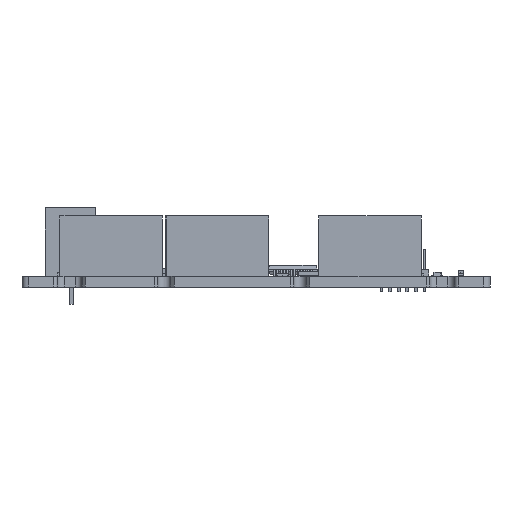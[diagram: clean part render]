
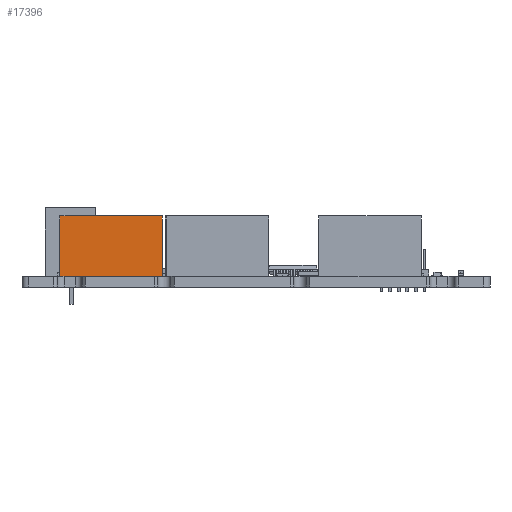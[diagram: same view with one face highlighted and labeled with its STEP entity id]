
A CAD part, left-side view. The second image highlights one B-rep face of the part: STEP entity #17396.
In plain terms, the highlighted planar face has unit normal (-1, 0, 0).
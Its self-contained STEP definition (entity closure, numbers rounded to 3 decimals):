
#17371 = VERTEX_POINT('',#17372);
#17372 = CARTESIAN_POINT('',(57.527,48.3,8.9)
  );
#17378 = EDGE_CURVE('',#17379,#17371,#17381,.T.);
#17379 = VERTEX_POINT('',#17380);
#17380 = CARTESIAN_POINT('',(57.527,48.3,0.));
#17381 = LINE('',#17382,#17383);
#17382 = CARTESIAN_POINT('',(57.527,48.3,0.));
#17383 = VECTOR('',#17384,1.);
#17384 = DIRECTION('',(0.,0.,1.));
#17396 = ADVANCED_FACE('',(#17397),#17422,.T.);
#17397 = FACE_BOUND('',#17398,.T.);
#17398 = EDGE_LOOP('',(#17399,#17400,#17408,#17416));
#17399 = ORIENTED_EDGE('',*,*,#17378,.T.);
#17400 = ORIENTED_EDGE('',*,*,#17401,.T.);
#17401 = EDGE_CURVE('',#17371,#17402,#17404,.T.);
#17402 = VERTEX_POINT('',#17403);
#17403 = CARTESIAN_POINT('',(57.527,63.4,8.9)
  );
#17404 = LINE('',#17405,#17406);
#17405 = CARTESIAN_POINT('',(57.527,48.3,8.9)
  );
#17406 = VECTOR('',#17407,1.);
#17407 = DIRECTION('',(0.,1.,0.));
#17408 = ORIENTED_EDGE('',*,*,#17409,.F.);
#17409 = EDGE_CURVE('',#17410,#17402,#17412,.T.);
#17410 = VERTEX_POINT('',#17411);
#17411 = CARTESIAN_POINT('',(57.527,63.4,0.));
#17412 = LINE('',#17413,#17414);
#17413 = CARTESIAN_POINT('',(57.527,63.4,0.));
#17414 = VECTOR('',#17415,1.);
#17415 = DIRECTION('',(0.,0.,1.));
#17416 = ORIENTED_EDGE('',*,*,#17417,.F.);
#17417 = EDGE_CURVE('',#17379,#17410,#17418,.T.);
#17418 = LINE('',#17419,#17420);
#17419 = CARTESIAN_POINT('',(57.527,48.3,0.));
#17420 = VECTOR('',#17421,1.);
#17421 = DIRECTION('',(0.,1.,0.));
#17422 = PLANE('',#17423);
#17423 = AXIS2_PLACEMENT_3D('',#17424,#17425,#17426);
#17424 = CARTESIAN_POINT('',(57.527,48.3,0.));
#17425 = DIRECTION('',(-1.,0.,0.));
#17426 = DIRECTION('',(0.,1.,0.));
